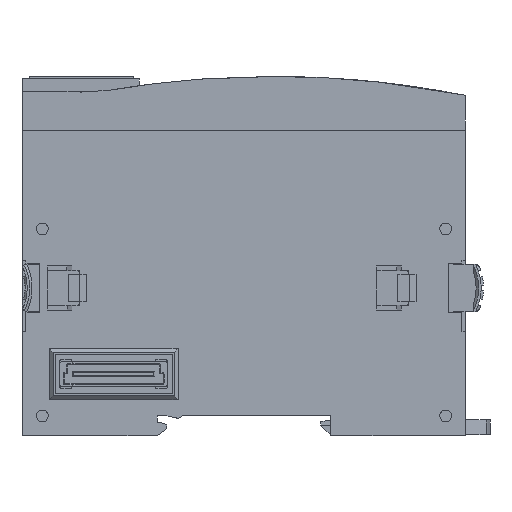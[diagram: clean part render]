
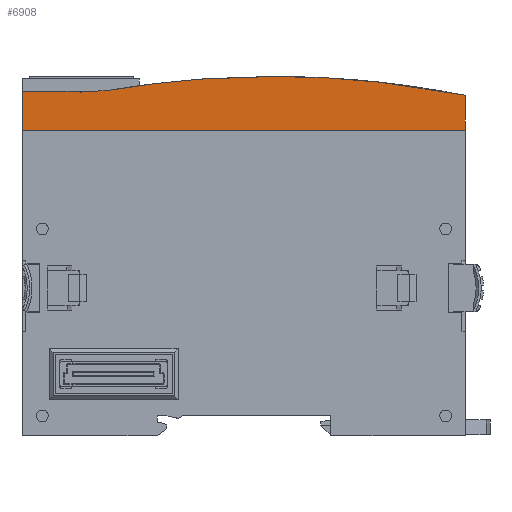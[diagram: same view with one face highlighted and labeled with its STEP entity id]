
A CAD part, left-side view. The second image highlights one B-rep face of the part: STEP entity #6908.
In plain terms, the highlighted planar face has unit normal (-1, 0, 0).
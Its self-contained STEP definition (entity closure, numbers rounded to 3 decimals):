
#416 = VERTEX_POINT ( 'NONE', #37760 ) ;
#1111 = AXIS2_PLACEMENT_3D ( 'NONE', #29491, #24385, #19287 ) ;
#1668 = CARTESIAN_POINT ( 'NONE',  ( 0., 12.89, 71.396 ) ) ;
#1809 = VECTOR ( 'NONE', #38105, 1000. ) ;
#1828 = ORIENTED_EDGE ( 'NONE', *, *, #28952, .T. ) ;
#2836 = VERTEX_POINT ( 'NONE', #9822 ) ;
#3305 = CARTESIAN_POINT ( 'NONE',  ( 0., 0., 67.558 ) ) ;
#3320 = VERTEX_POINT ( 'NONE', #12061 ) ;
#3735 = DIRECTION ( 'NONE',  ( 0., -1., 0. ) ) ;
#4506 = CARTESIAN_POINT ( 'NONE',  ( 0., 73.989, 70. ) ) ;
#4830 = CARTESIAN_POINT ( 'NONE',  ( 0., 72.202, 70.225 ) ) ;
#6770 = CARTESIAN_POINT ( 'NONE',  ( 0., 6.421, 70.437 ) ) ;
#6879 = VECTOR ( 'NONE', #25106, 1000. ) ;
#6908 = ADVANCED_FACE ( 'NONE', ( #48394 ), #10286, .T. ) ;
#7151 = EDGE_CURVE ( 'NONE', #42369, #23133, #47462, .T. ) ;
#8333 = CARTESIAN_POINT ( 'NONE',  ( 0., 78.3, 69.7 ) ) ;
#8417 = LINE ( 'NONE', #3305, #29093 ) ;
#8846 = CARTESIAN_POINT ( 'NONE',  ( 0., 78.15, 69.7 ) ) ;
#9359 = VERTEX_POINT ( 'NONE', #26670 ) ;
#9614 = CARTESIAN_POINT ( 'NONE',  ( 0., 73.092, 70.075 ) ) ;
#9801 = ORIENTED_EDGE ( 'NONE', *, *, #31243, .T. ) ;
#9822 = CARTESIAN_POINT ( 'NONE',  ( 0., 74.892, 70. ) ) ;
#9951 = CARTESIAN_POINT ( 'NONE',  ( 0., 66.716, 71.148 ) ) ;
#10286 = PLANE ( 'NONE',  #1111 ) ;
#10610 = B_SPLINE_CURVE_WITH_KNOTS ( 'NONE', 3,
 ( #30020, #9614, #4506, #49224 ),
 .UNSPECIFIED., .F., .F.,
 ( 4, 4 ),
 ( 0., 1. ),
 .UNSPECIFIED. ) ;
#11882 = CARTESIAN_POINT ( 'NONE',  ( 0., 0., 69.161 ) ) ;
#12061 = CARTESIAN_POINT ( 'NONE',  ( 0., 78., 69.7 ) ) ;
#12261 = EDGE_CURVE ( 'NONE', #16216, #44178, #41673, .T. ) ;
#13960 = LINE ( 'NONE', #8846, #43685 ) ;
#15068 = CARTESIAN_POINT ( 'NONE',  ( 0., 61.202, 71.842 ) ) ;
#15800 = CARTESIAN_POINT ( 'NONE',  ( 0., 78.3, 70. ) ) ;
#16140 = CARTESIAN_POINT ( 'NONE',  ( 0., 39., 73. ) ) ;
#16216 = VERTEX_POINT ( 'NONE', #35153 ) ;
#19287 = DIRECTION ( 'NONE',  ( 0., 0., -1. ) ) ;
#20156 = CARTESIAN_POINT ( 'NONE',  ( 0., 50.116, 72.768 ) ) ;
#20551 = CARTESIAN_POINT ( 'NONE',  ( 0., 0., 62.05 ) ) ;
#20931 = EDGE_LOOP ( 'NONE', ( #47427, #1828, #21439, #25440, #21488, #23105, #38503, #29036, #9801, #22998, #32762 ) ) ;
#21439 = ORIENTED_EDGE ( 'NONE', *, *, #12261, .T. ) ;
#21488 = ORIENTED_EDGE ( 'NONE', *, *, #22061, .T. ) ;
#22061 = EDGE_CURVE ( 'NONE', #9359, #42369, #47591, .T. ) ;
#22379 = DIRECTION ( 'NONE',  ( 0., 1., 0. ) ) ;
#22998 = ORIENTED_EDGE ( 'NONE', *, *, #36059, .F. ) ;
#23105 = ORIENTED_EDGE ( 'NONE', *, *, #7151, .T. ) ;
#23133 = VERTEX_POINT ( 'NONE', #37251 ) ;
#24220 = VERTEX_POINT ( 'NONE', #15800 ) ;
#24385 = DIRECTION ( 'NONE',  ( -1., 0., 0. ) ) ;
#25106 = DIRECTION ( 'NONE',  ( 0., 0., 1. ) ) ;
#25242 = CARTESIAN_POINT ( 'NONE',  ( 0., 44.562, 73. ) ) ;
#25440 = ORIENTED_EDGE ( 'NONE', *, *, #37797, .T. ) ;
#26670 = CARTESIAN_POINT ( 'NONE',  ( 0., 0., 69.161 ) ) ;
#27493 = CARTESIAN_POINT ( 'NONE',  ( 0., 45., 70. ) ) ;
#27799 = CARTESIAN_POINT ( 'NONE',  ( 0., 90., 70. ) ) ;
#28120 = VERTEX_POINT ( 'NONE', #27799 ) ;
#28868 = VECTOR ( 'NONE', #30303, 1000. ) ;
#28952 = EDGE_CURVE ( 'NONE', #28120, #16216, #41171, .T. ) ;
#29036 = ORIENTED_EDGE ( 'NONE', *, *, #33863, .T. ) ;
#29093 = VECTOR ( 'NONE', #48030, 1000. ) ;
#29491 = CARTESIAN_POINT ( 'NONE',  ( 0., 90., 73.066 ) ) ;
#30020 = CARTESIAN_POINT ( 'NONE',  ( 0., 72.202, 70.225 ) ) ;
#30220 = CARTESIAN_POINT ( 'NONE',  ( 0., 78.3, 69.85 ) ) ;
#30303 = DIRECTION ( 'NONE',  ( 0., 0., -1. ) ) ;
#30355 = CARTESIAN_POINT ( 'NONE',  ( 0., 39., 73. ) ) ;
#30986 = DIRECTION ( 'NONE',  ( 0., 0., -1. ) ) ;
#31243 = EDGE_CURVE ( 'NONE', #416, #3320, #40495, .T. ) ;
#31493 = DIRECTION ( 'NONE',  ( 0., -1., 0. ) ) ;
#32009 = VECTOR ( 'NONE', #30986, 1000. ) ;
#32294 = EDGE_CURVE ( 'NONE', #48913, #24220, #35327, .T. ) ;
#32762 = ORIENTED_EDGE ( 'NONE', *, *, #32294, .T. ) ;
#33863 = EDGE_CURVE ( 'NONE', #2836, #416, #48310, .T. ) ;
#35153 = CARTESIAN_POINT ( 'NONE',  ( 0., 90., 62.05 ) ) ;
#35327 = LINE ( 'NONE', #30220, #6879 ) ;
#35411 = CARTESIAN_POINT ( 'NONE',  ( 0., 78., 69.85 ) ) ;
#36059 = EDGE_CURVE ( 'NONE', #48913, #3320, #13960, .T. ) ;
#36102 = CARTESIAN_POINT ( 'NONE',  ( 0., 90., 67.558 ) ) ;
#36189 = CARTESIAN_POINT ( 'NONE',  ( 0., 39., 73. ) ) ;
#36605 = CARTESIAN_POINT ( 'NONE',  ( 0., 45., 62.05 ) ) ;
#37251 = CARTESIAN_POINT ( 'NONE',  ( 0., 72.202, 70.225 ) ) ;
#37701 = LINE ( 'NONE', #27493, #39357 ) ;
#37760 = CARTESIAN_POINT ( 'NONE',  ( 0., 78., 70. ) ) ;
#37797 = EDGE_CURVE ( 'NONE', #44178, #9359, #8417, .T. ) ;
#38105 = DIRECTION ( 'NONE',  ( 0., 1., 0. ) ) ;
#38503 = ORIENTED_EDGE ( 'NONE', *, *, #45074, .T. ) ;
#39357 = VECTOR ( 'NONE', #22379, 1000. ) ;
#40495 = LINE ( 'NONE', #35411, #28868 ) ;
#41171 = LINE ( 'NONE', #36102, #32009 ) ;
#41260 = CARTESIAN_POINT ( 'NONE',  ( 0., 32.453, 73. ) ) ;
#41673 = LINE ( 'NONE', #36605, #48415 ) ;
#42369 = VERTEX_POINT ( 'NONE', #16140 ) ;
#43191 = CARTESIAN_POINT ( 'NONE',  ( 0., 45., 70. ) ) ;
#43685 = VECTOR ( 'NONE', #3735, 1000. ) ;
#44178 = VERTEX_POINT ( 'NONE', #20551 ) ;
#45074 = EDGE_CURVE ( 'NONE', #23133, #2836, #10610, .T. ) ;
#46360 = CARTESIAN_POINT ( 'NONE',  ( 0., 25.921, 72.679 ) ) ;
#47427 = ORIENTED_EDGE ( 'NONE', *, *, #49295, .T. ) ;
#47462 = B_SPLINE_CURVE_WITH_KNOTS ( 'NONE', 3,
 ( #30355, #25242, #20156, #15068, #9951, #4830 ),
 .UNSPECIFIED., .F., .F.,
 ( 4, 2, 4 ),
 ( 0., 0.5, 1. ),
 .UNSPECIFIED. ) ;
#47591 = B_SPLINE_CURVE_WITH_KNOTS ( 'NONE', 3,
 ( #11882, #6770, #1668, #46360, #41260, #36189 ),
 .UNSPECIFIED., .F., .F.,
 ( 4, 2, 4 ),
 ( 0., 0.5, 1. ),
 .UNSPECIFIED. ) ;
#48030 = DIRECTION ( 'NONE',  ( 0., 0., 1. ) ) ;
#48310 = LINE ( 'NONE', #43191, #1809 ) ;
#48394 = FACE_OUTER_BOUND ( 'NONE', #20931, .T. ) ;
#48415 = VECTOR ( 'NONE', #31493, 1000. ) ;
#48913 = VERTEX_POINT ( 'NONE', #8333 ) ;
#49224 = CARTESIAN_POINT ( 'NONE',  ( 0., 74.892, 70. ) ) ;
#49295 = EDGE_CURVE ( 'NONE', #24220, #28120, #37701, .T. ) ;
